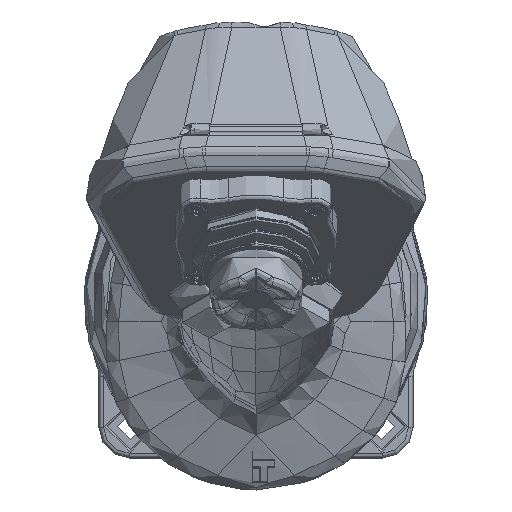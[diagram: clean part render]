
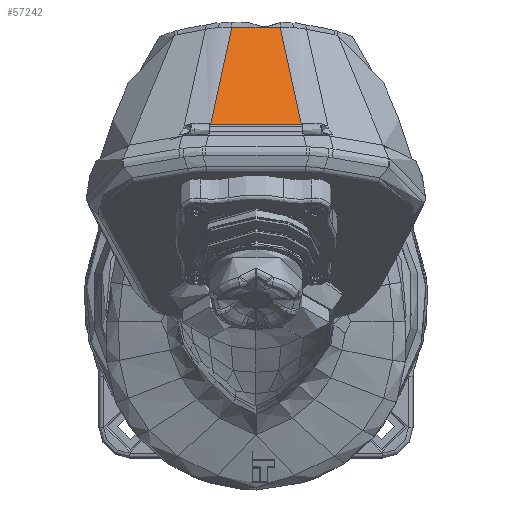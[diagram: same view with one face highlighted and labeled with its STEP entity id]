
A CAD part, top view. The second image highlights one B-rep face of the part: STEP entity #57242.
In plain terms, the highlighted planar face has unit normal (0, 0.712, 0.702).
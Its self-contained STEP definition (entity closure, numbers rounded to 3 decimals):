
#3847=B_SPLINE_CURVE_WITH_KNOTS('',3,(#233864,#233865,#233866,#233867),
 .UNSPECIFIED.,.F.,.F.,(4,4),(0.09,1.),.UNSPECIFIED.);
#3848=B_SPLINE_CURVE_WITH_KNOTS('',3,(#233868,#233869,#233870,#233871),
 .UNSPECIFIED.,.F.,.F.,(4,4),(0.,0.91),.UNSPECIFIED.);
#7966=CIRCLE('',#61993,1941.837);
#12067=FACE_OUTER_BOUND('',#15609,.T.);
#15609=EDGE_LOOP('',(#44475,#44476,#44477,#44478));
#18321=LINE('',#233863,#20201);
#20201=VECTOR('',#71532,10.);
#23227=VERTEX_POINT('',#132137);
#23513=VERTEX_POINT('',#168337);
#24062=VERTEX_POINT('',#233861);
#24063=VERTEX_POINT('',#233862);
#31057=EDGE_CURVE('',#23227,#23513,#7966,.T.);
#31249=EDGE_CURVE('',#24062,#24063,#18321,.T.);
#31250=EDGE_CURVE('',#24063,#23227,#3847,.T.);
#31251=EDGE_CURVE('',#23513,#24062,#3848,.T.);
#44475=ORIENTED_EDGE('',*,*,#31249,.T.);
#44476=ORIENTED_EDGE('',*,*,#31250,.T.);
#44477=ORIENTED_EDGE('',*,*,#31057,.T.);
#44478=ORIENTED_EDGE('',*,*,#31251,.T.);
#51685=PLANE('',#62049);
#57242=ADVANCED_FACE('',(#12067),#51685,.F.);
#61993=AXIS2_PLACEMENT_3D('',#223031,#71370,#71371);
#62049=AXIS2_PLACEMENT_3D('',#233860,#71530,#71531);
#71370=DIRECTION('center_axis',(0.,-0.712,
-0.702));
#71371=DIRECTION('ref_axis',(-0.003,-0.702,0.712));
#71530=DIRECTION('center_axis',(0.,-0.712,
-0.702));
#71531=DIRECTION('ref_axis',(0.,0.702,-0.712));
#71532=DIRECTION('',(1.,0.,0.));
#132137=CARTESIAN_POINT('',(5.187,58.455,195.682));
#168337=CARTESIAN_POINT('',(-5.187,58.455,195.682));
#223031=CARTESIAN_POINT('Origin',(0.,1422.338,
-1186.535));
#233860=CARTESIAN_POINT('Origin',(-10.727,46.53,207.766));
#233861=CARTESIAN_POINT('',(-9.756,37.558,216.859));
#233862=CARTESIAN_POINT('',(9.756,37.558,216.859));
#233863=CARTESIAN_POINT('',(-5.364,37.558,216.859));
#233864=CARTESIAN_POINT('Ctrl Pts',(9.756,37.558,216.859));
#233865=CARTESIAN_POINT('Ctrl Pts',(8.232,44.524,209.8));
#233866=CARTESIAN_POINT('Ctrl Pts',(6.709,51.489,202.741));
#233867=CARTESIAN_POINT('Ctrl Pts',(5.187,58.455,195.682));
#233868=CARTESIAN_POINT('Ctrl Pts',(-5.187,58.455,
195.682));
#233869=CARTESIAN_POINT('Ctrl Pts',(-6.709,51.489,202.741));
#233870=CARTESIAN_POINT('Ctrl Pts',(-8.232,44.524,209.8));
#233871=CARTESIAN_POINT('Ctrl Pts',(-9.756,37.558,
216.859));
